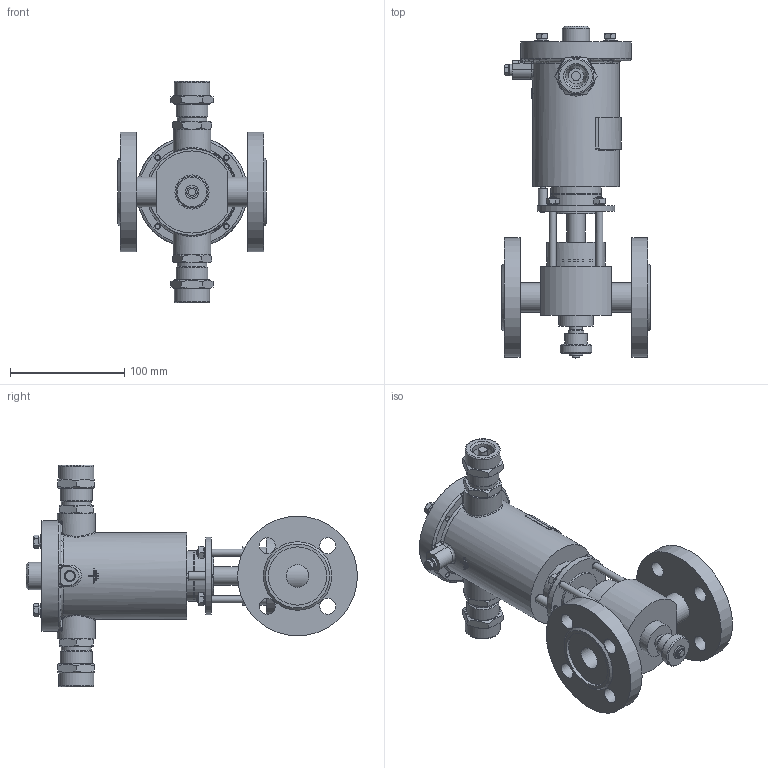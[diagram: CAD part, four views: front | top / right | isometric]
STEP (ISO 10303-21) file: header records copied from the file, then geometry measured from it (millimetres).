
FILE_DESCRIPTION(('STEP AP203'), '1');
FILE_NAME('ÑÅÍÑ DN20PN25-Â-ÍÎ-200Ñ-ÑÂ.stp', '2018-09-19T08:55:09', ('Îðëîâ Å.Â.'), ('ÎÎÎ ÍÏÏ Ñåíñîð'), 'ASCON STEP Converter 1.3', 'Kompas 3D', '');
FILE_SCHEMA(('CONFIG_CONTROL_DESIGN','SUPPORT_RESOURCE_SCHEMA'));
Length unit declared in the file: millimetre
Products named in the file (1): 106
Bounding box: 130 x 291 x 194 mm (x, y, z)
Volume: 823556.9 mm3; surface area: 246247.9 mm2
Topology: 3 solids, 25 shells, 1927 faces, 5069 edges, 3309 vertices
Faces by surface type: cylinder 997, plane 727, cone 139, bspline 29, torus 19, extrusion 16
Full cylindrical faces by diameter (mm): 2.459 x4, 4 x8, 4.134 x1, 4.5 x2, 4.917 x8, 5 x2, 5.1 x1, 6 x15, 6.3 x2, 6.4 x1, 6.5 x11, 7 x1, 8 x8, 10 x3, 11.5 x1, 12 x5, 12.4 x1, 13 x2, 14 x9, 16 x2, 16.376 x1, 18 x1, 18.632 x2, 20 x5, 22 x2, 22.376 x2, 23.5 x3, 24 x4, 24.5 x4, 25 x3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
Entity records: 72554 total; most frequent: CARTESIAN_POINT 23473, DIRECTION 10710, ORIENTED_EDGE 10114, EDGE_CURVE 5057, AXIS2_PLACEMENT_3D 4133, VERTEX_POINT 3309, VECTOR 2444, LINE 2428
